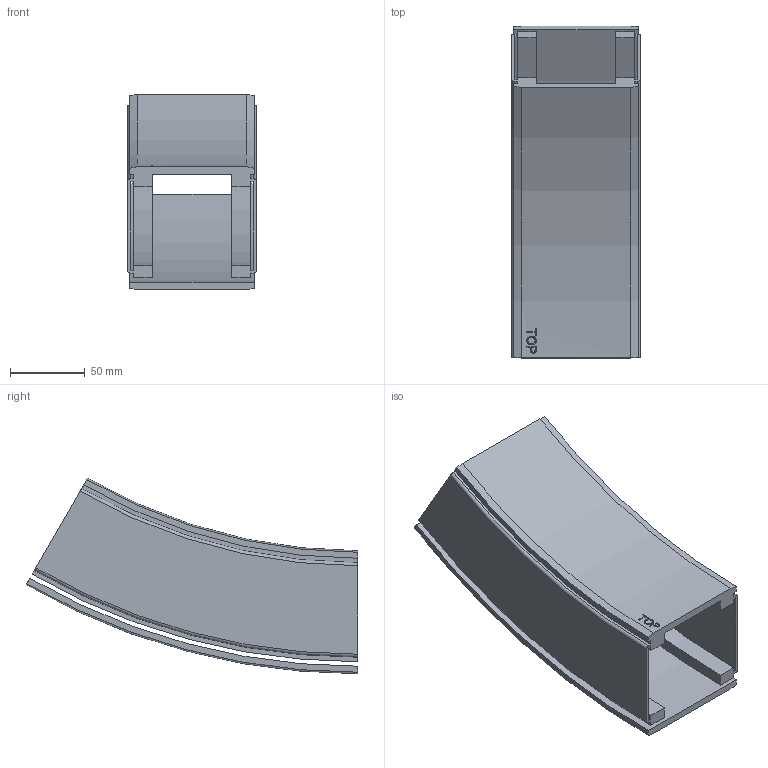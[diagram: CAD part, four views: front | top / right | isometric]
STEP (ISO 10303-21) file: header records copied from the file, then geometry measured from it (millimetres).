
FILE_DESCRIPTION(/* description */ ('VERTIKALKURVA S530 R400'),/* implementation_level */ '2;1');
FILE_NAME(/* name */ '530-5645+830-2000-UPP-01.stp',/* time_stamp */ '2022-09-21T07:05:20+02:00',/* author */ ('Mathias.Dore'),/* organization */ (''),/* preprocessor_version */ 'ST-DEVELOPER v19.2',/* originating_system */ 'Autodesk Inventor 2023',/* authorisation */ '');
FILE_SCHEMA (('AUTOMOTIVE_DESIGN { 1 0 10303 214 3 1 1 }'));
Length unit declared in the file: millimetre
Products named in the file (1): 530-5645+830-2000-UPP-01
Bounding box: 86 x 221.25 x 130.3 mm (x, y, z)
Volume: 311567.8 mm3; surface area: 154733.7 mm2
Topology: 2 solids, 2 shells, 87 faces, 234 edges, 156 vertices
Faces by surface type: plane 40, cylinder 25, bspline 14, cone 4, torus 4
Entity records: 7333 total; most frequent: CARTESIAN_POINT 5134, ORIENTED_EDGE 468, DIRECTION 408, EDGE_CURVE 234, VERTEX_POINT 156, AXIS2_PLACEMENT_3D 141, LINE 126, VECTOR 126
